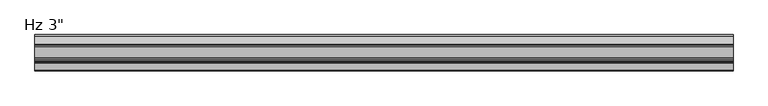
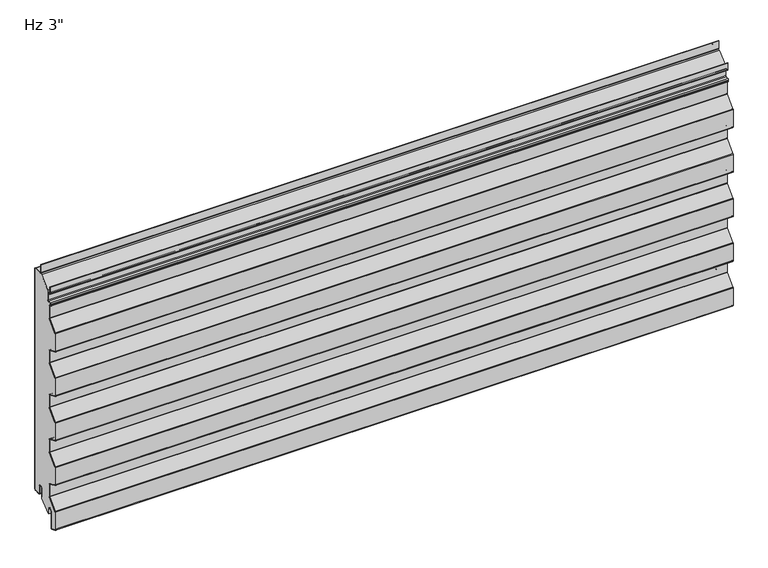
"""IFC4 building model written with IfcOpenShell, lengths in millimetres: plate geometry."""

import ifcopenshell
import ifcopenshell.guid

model = None  # the IFC model being written
_history = None  # IfcOwnerHistory: only IFC2X3 demands one
_inside = {}  # id of a spatial element -> (the spatial element, [elements in it])
_under = {}  # id of a project, library or spatial element -> (it, [spatial elements below it])
_declared = {}  # id of a project -> (the project, [libraries it declares])
_typed = {}  # id of a type object -> (the type object, [elements of that type])
_made_of = {}  # id of a material, layer set ... -> (it, [elements and type objects made of it])


def new_model(schema):
    """Start an empty IFC model of exactly this schema.

    Asked for "IFC4X3", IfcOpenShell would pick the latest addendum, in which some entities
    have other attributes; the version numbers below select the first issue.
    IFC2X3 requires an IfcOwnerHistory on every rooted entity: one is made here for all.
    """
    global model, _history
    if schema == "IFC4X3":
        model = ifcopenshell.file(schema_version=(4, 3, 0, 0))
    else:
        model = ifcopenshell.file(schema=schema)
    _inside.clear()
    _under.clear()
    _declared.clear()
    _typed.clear()
    _made_of.clear()
    _history = None
    if model.schema == "IFC2X3":
        org = make("IfcOrganization", Name="unknown")
        user = make(
            "IfcPersonAndOrganization",
            ThePerson=make("IfcPerson", FamilyName="unknown"),
            TheOrganization=org,
        )
        app = make(
            "IfcApplication",
            ApplicationDeveloper=org,
            Version="unknown",
            ApplicationFullName="unknown",
            ApplicationIdentifier="unknown",
        )
        _history = make(
            "IfcOwnerHistory",
            OwningUser=user,
            OwningApplication=app,
            ChangeAction="ADDED",
            CreationDate=0,
        )
    return model


def make(cls, **values):
    """One entity of the class cls with the attributes given. An attribute that is None is left unset."""
    return model.create_entity(
        cls, **{name: value for name, value in values.items() if value is not None}
    )


def rooted(cls, **values):
    """An entity with a GlobalId (a new one), such as an element, a storey or a relation."""
    return make(cls, GlobalId=ifcopenshell.guid.new(), OwnerHistory=_history, **values)


def si_unit(unit_type, name, prefix=None):
    """IfcSIUnit, for example si_unit("LENGTHUNIT", "METRE", prefix="MILLI")."""
    return make("IfcSIUnit", UnitType=unit_type, Prefix=prefix, Name=name)


def assignment(units):
    """IfcUnitAssignment: the units of a project."""
    return None if units is None else make("IfcUnitAssignment", Units=units)


def point(xyz):
    """IfcCartesianPoint."""
    return None if xyz is None else make("IfcCartesianPoint", Coordinates=xyz)


def direction(xyz):
    """IfcDirection."""
    return None if xyz is None else make("IfcDirection", DirectionRatios=xyz)


def frame(location, z_axis=None, x_axis=None):
    """IfcAxis2Placement3D, a coordinate frame: its origin and axes. An axis left out is left unset."""
    return make(
        "IfcAxis2Placement3D",
        Location=point(location),
        Axis=direction(z_axis),
        RefDirection=direction(x_axis),
    )


def frame_2d(location, x_axis=None):
    """IfcAxis2Placement2D, a coordinate frame in the plane: its origin and x axis."""
    return make(
        "IfcAxis2Placement2D", Location=point(location), RefDirection=direction(x_axis)
    )


def origin():
    """The frame at (0, 0, 0) with its axes left unset."""
    return frame((0.0, 0.0, 0.0))


def place(relative_to, where):
    """IfcLocalPlacement: puts the frame where relative to a parent placement (None: the world)."""
    return make(
        "IfcLocalPlacement", PlacementRelTo=relative_to, RelativePlacement=where
    )


def context(
    kind, dimensions, precision=None, world=None, true_north=None, identifier=None
):
    """IfcGeometricRepresentationContext, for example the 3D "Model" context."""
    return make(
        "IfcGeometricRepresentationContext",
        ContextIdentifier=identifier,
        ContextType=kind,
        CoordinateSpaceDimension=dimensions,
        Precision=precision,
        WorldCoordinateSystem=world,
        TrueNorth=true_north,
    )


def project(units=None, contexts=None):
    """IfcProject with its units and contexts."""
    return rooted(
        "IfcProject",
        Name="project",
        RepresentationContexts=contexts,
        UnitsInContext=assignment(units),
    )


def spatial(cls, under=None, at=None, **own):
    """A site, building, storey or space (cls), placed at a placement, below another one or the project."""
    s = rooted(cls, ObjectPlacement=at, **own)
    if under is not None:
        _under.setdefault(under.id(), (under, []))[1].append(s)
    return s


def polyline(points):
    """IfcPolyline through the points."""
    return make("IfcPolyline", Points=[point(p) for p in points])


def circle_curve(where, radius):
    """IfcCircle in the frame where."""
    return make("IfcCircle", Position=where, Radius=radius)


def trimmed(basis, trim1, trim2, sense, master):
    """IfcTrimmedCurve: the piece of a basis curve between two trims."""
    return make(
        "IfcTrimmedCurve",
        BasisCurve=basis,
        Trim1=trim1,
        Trim2=trim2,
        SenseAgreement=sense,
        MasterRepresentation=master,
    )


def segment(curve, same_sense, transition):
    """IfcCompositeCurveSegment."""
    return make(
        "IfcCompositeCurveSegment",
        Transition=transition,
        SameSense=same_sense,
        ParentCurve=curve,
    )


def composite_curve(segments, self_intersect=None):
    """IfcCompositeCurve: segments joined end to end."""
    return make("IfcCompositeCurve", Segments=segments, SelfIntersect=self_intersect)


def outline(outer, holes=None, kind="AREA"):
    """IfcArbitraryClosedProfileDef: a profile drawn as a closed curve; with holes, ...WithVoids."""
    if holes is None:
        return make("IfcArbitraryClosedProfileDef", ProfileType=kind, OuterCurve=outer)
    return make(
        "IfcArbitraryProfileDefWithVoids",
        ProfileType=kind,
        OuterCurve=outer,
        InnerCurves=holes,
    )


def extrude(swept, where, along, depth):
    """IfcExtrudedAreaSolid: the profile swept, set in the frame where, extruded along a direction by depth."""
    return make(
        "IfcExtrudedAreaSolid",
        SweptArea=swept,
        Position=where,
        ExtrudedDirection=direction(along),
        Depth=depth,
    )


def shape(context_of_items, identifier, shape_type, items):
    """IfcShapeRepresentation: the items that make up one representation, for example the "Body"."""
    return make(
        "IfcShapeRepresentation",
        ContextOfItems=context_of_items,
        RepresentationIdentifier=identifier,
        RepresentationType=shape_type,
        Items=items,
    )


def source(mapping_origin, context_of_items, identifier, shape_type, items):
    """IfcRepresentationMap: a shape defined once, which mapped items show again and again."""
    return make(
        "IfcRepresentationMap",
        MappingOrigin=mapping_origin,
        MappedRepresentation=shape(context_of_items, identifier, shape_type, items),
    )


def transform(
    local_origin,
    x_axis=None,
    y_axis=None,
    z_axis=None,
    scale=None,
    scale2=None,
    scale3=None,
    uniform=True,
):
    """IfcCartesianTransformationOperator3D, or its non-uniform kind. x_axis, y_axis, z_axis: its Axis1, 2, 3."""
    if uniform:
        return make(
            "IfcCartesianTransformationOperator3D",
            Axis1=direction(x_axis),
            Axis2=direction(y_axis),
            LocalOrigin=point(local_origin),
            Scale=scale,
            Axis3=direction(z_axis),
        )
    return make(
        "IfcCartesianTransformationOperator3DnonUniform",
        Axis1=direction(x_axis),
        Axis2=direction(y_axis),
        LocalOrigin=point(local_origin),
        Scale=scale,
        Axis3=direction(z_axis),
        Scale2=scale2,
        Scale3=scale3,
    )


def mapped(mapping_source, mapping_target):
    """IfcMappedItem: shows the shape of a source again, moved by a transform."""
    return make(
        "IfcMappedItem", MappingSource=mapping_source, MappingTarget=mapping_target
    )


def made_of(thing, what):
    """Note that an element or type object is made of a material, layer set ...; save() writes the relation."""
    if what is not None:
        _made_of.setdefault(what.id(), (what, []))[1].append(thing)
    return thing


def element(
    cls,
    number,
    at=None,
    inside=None,
    cuts=None,
    type_object=None,
    material=None,
    context=None,
    identifier="Body",
    shape_type=None,
    held_by="IfcProductDefinitionShape",
    body=None,
    shapes=None,
    **own,
):
    """One element of the class cls, such as IfcWall. Its Tag is "e" and its number.

    at: its placement. inside: the storey or other place that contains it. cuts: it is an
    opening in that element (IfcRelVoidsElement). A single representation is given by context,
    identifier, shape_type and body (its items); several are given by shapes. held_by: the class
    of the entity that holds the representations. save() writes the other relations.
    """
    e = rooted(cls, Tag="e%d" % number, ObjectPlacement=at, **own)
    if body is not None:
        shapes = [shape(context, identifier, shape_type, body)]
    if shapes is not None:
        e.Representation = make(held_by, Representations=shapes)
    if inside is not None:
        _inside.setdefault(inside.id(), (inside, []))[1].append(e)
    if cuts is not None:
        rooted(
            "IfcRelVoidsElement", RelatingBuildingElement=cuts, RelatedOpeningElement=e
        )
    if type_object is not None:
        _typed.setdefault(type_object.id(), (type_object, []))[1].append(e)
    return made_of(e, material)


def aggregate(whole, parts):
    """IfcRelAggregates: a whole, such as a stair, and the parts it consists of."""
    return rooted("IfcRelAggregates", RelatingObject=whole, RelatedObjects=parts)


def save(model, path):
    """Write the relations noted so far, then the file.

    IfcRelAggregates (storeys below a building ...), IfcRelContainedInSpatialStructure (elements
    in a storey), IfcRelDefinesByType, IfcRelAssociatesMaterial and IfcRelDeclares: one each for
    every whole, place, type object, material and project.
    """
    for whole, parts in _under.values():
        aggregate(whole, parts)
    for where, things in _inside.values():
        rooted(
            "IfcRelContainedInSpatialStructure",
            RelatedElements=things,
            RelatingStructure=where,
        )
    for kind, things in _typed.values():
        rooted("IfcRelDefinesByType", RelatedObjects=things, RelatingType=kind)
    for what, things in _made_of.values():
        rooted("IfcRelAssociatesMaterial", RelatedObjects=things, RelatingMaterial=what)
    for by, libraries in _declared.values():
        rooted("IfcRelDeclares", RelatingContext=by, RelatedDefinitions=libraries)
    model.write(path)


def plate_007a45e4(model_context):
    return source(origin(), model_context, "Body", "SweptSolid", [
        extrude(outline(composite_curve([segment(polyline([(-26.4011912, 19.05), (-26.4011912, -3.1976612), (-49.233822, -23.01875), (-51.3886912, -23.01875), (-51.3886912, -11.90625)]), True, "CONTINUOUS"), segment(trimmed(circle_curve(frame_2d((-56.3574412, -11.90625)), 4.96875), [point((-51.3886912, -11.90625))], [point((-61.3261912, -11.90625))], True, "CARTESIAN"), True, "CONTINUOUS"), segment(polyline([(-61.3261912, -11.90625), (-61.3261912, -48.8194049)]), True, "CONTINUOUS"), segment(trimmed(circle_curve(frame_2d((-62.7074412, -48.8194049)), 1.38125), [point((-61.3261912, -48.8194049))], [point((-63.2666208, -50.0824052))], False, "CARTESIAN"), True, "CONTINUOUS"), segment(polyline([(-63.2666208, -50.0824052), (-74.3779296, -45.1629946)]), True, "CONTINUOUS"), segment(trimmed(circle_curve(frame_2d((-73.81875, -43.8999943)), 1.38125), [point((-74.3779296, -45.1629946))], [point((-75.2, -43.8999943))], False, "CARTESIAN"), True, "CONTINUOUS"), segment(polyline([(-75.2, -43.8999943), (-75.2, -5.0536946)]), True, "CONTINUOUS"), segment(trimmed(circle_curve(frame_2d((-73.1012, -5.0536946)), 2.0988), [point((-75.2, -5.0536946))], [point((-74.6092077, -3.5939431))], False, "CARTESIAN"), True, "CONTINUOUS"), segment(polyline([(-74.6092077, -3.5939431), (-54.4145567, 17.2682996)]), True, "CONTINUOUS"), segment(trimmed(circle_curve(frame_2d((-56.2737, 19.0679503)), 2.5875), [point((-54.4145567, 17.2682996))], [point((-53.6862, 19.0679503))], True, "CARTESIAN"), True, "CONTINUOUS"), segment(polyline([(-53.6862, 19.0679503), (-53.6862, 45.5917981)]), True, "CONTINUOUS"), segment(trimmed(circle_curve(frame_2d((-56.2737, 45.5917981)), 2.5875), [point((-53.6862, 45.5917981))], [point((-55.2261871, 47.9577806))], True, "CARTESIAN"), True, "CONTINUOUS"), segment(polyline([(-55.2261871, 47.9577806), (-74.3779296, 56.4370054)]), True, "CONTINUOUS"), segment(trimmed(circle_curve(frame_2d((-73.81875, 57.7000057)), 1.38125), [point((-74.3779296, 56.4370054))], [point((-75.2, 57.7000057))], False, "CARTESIAN"), True, "CONTINUOUS"), segment(polyline([(-75.2, 57.7000057), (-75.2, 96.8367131)]), True, "CONTINUOUS"), segment(trimmed(circle_curve(frame_2d((-73.81875, 96.8367131)), 1.38125), [point((-75.2, 96.8367131))], [point((-74.8111912, 97.7973962))], False, "CARTESIAN"), True, "CONTINUOUS"), segment(polyline([(-74.8111912, 97.7973962), (-54.4145567, 118.8682996)]), True, "CONTINUOUS"), segment(trimmed(circle_curve(frame_2d((-56.2737, 120.6679503)), 2.5875), [point((-54.4145567, 118.8682996))], [point((-53.6862, 120.6679503))], True, "CARTESIAN"), True, "CONTINUOUS"), segment(polyline([(-53.6862, 120.6679503), (-53.6862, 147.1917981)]), True, "CONTINUOUS"), segment(trimmed(circle_curve(frame_2d((-56.2737, 147.1917981)), 2.5875), [point((-53.6862, 147.1917981))], [point((-55.2261871, 149.5577806))], True, "CARTESIAN"), True, "CONTINUOUS"), segment(polyline([(-55.2261871, 149.5577806), (-74.3779296, 158.0370054)]), True, "CONTINUOUS"), segment(trimmed(circle_curve(frame_2d((-73.81875, 159.3000057)), 1.38125), [point((-74.3779296, 158.0370054))], [point((-75.2, 159.3000057))], False, "CARTESIAN"), True, "CONTINUOUS"), segment(polyline([(-75.2, 159.3000057), (-75.2, 198.4367131)]), True, "CONTINUOUS"), segment(trimmed(circle_curve(frame_2d((-73.81875, 198.4367131)), 1.38125), [point((-75.2, 198.4367131))], [point((-74.8111912, 199.3973962))], False, "CARTESIAN"), True, "CONTINUOUS"), segment(polyline([(-74.8111912, 199.3973962), (-54.4145567, 220.4682996)]), True, "CONTINUOUS"), segment(trimmed(circle_curve(frame_2d((-56.2737, 222.2679503)), 2.5875), [point((-54.4145567, 220.4682996))], [point((-53.6862, 222.2679503))], True, "CARTESIAN"), True, "CONTINUOUS"), segment(polyline([(-53.6862, 222.2679503), (-53.6862, 248.7917981)]), True, "CONTINUOUS"), segment(trimmed(circle_curve(frame_2d((-56.2737, 248.7917981)), 2.5875), [point((-53.6862, 248.7917981))], [point((-55.2261871, 251.1577806))], True, "CARTESIAN"), True, "CONTINUOUS"), segment(polyline([(-55.2261871, 251.1577806), (-74.3779296, 259.6370054)]), True, "CONTINUOUS"), segment(trimmed(circle_curve(frame_2d((-73.81875, 260.9000057)), 1.38125), [point((-74.3779296, 259.6370054))], [point((-75.2, 260.9000057))], False, "CARTESIAN"), True, "CONTINUOUS"), segment(polyline([(-75.2, 260.9000057), (-75.2, 300.0367131)]), True, "CONTINUOUS"), segment(trimmed(circle_curve(frame_2d((-73.81875, 300.0367131)), 1.38125), [point((-75.2, 300.0367131))], [point((-74.8111912, 300.9973962))], False, "CARTESIAN"), True, "CONTINUOUS"), segment(polyline([(-74.8111912, 300.9973962), (-54.4145567, 322.0682996)]), True, "CONTINUOUS"), segment(trimmed(circle_curve(frame_2d((-56.2737, 323.8679503)), 2.5875), [point((-54.4145567, 322.0682996))], [point((-53.6862, 323.8679503))], True, "CARTESIAN"), True, "CONTINUOUS"), segment(polyline([(-53.6862, 323.8679503), (-53.6862, 350.3917981)]), True, "CONTINUOUS"), segment(trimmed(circle_curve(frame_2d((-56.2737, 350.3917981)), 2.5875), [point((-53.6862, 350.3917981))], [point((-55.2261871, 352.7577806))], True, "CARTESIAN"), True, "CONTINUOUS"), segment(polyline([(-55.2261871, 352.7577806), (-74.3779296, 361.2370054)]), True, "CONTINUOUS"), segment(trimmed(circle_curve(frame_2d((-73.81875, 362.5000057)), 1.38125), [point((-74.3779296, 361.2370054))], [point((-75.2, 362.5000057))], False, "CARTESIAN"), True, "CONTINUOUS"), segment(polyline([(-75.2, 362.5000057), (-75.2, 401.6367131)]), True, "CONTINUOUS"), segment(trimmed(circle_curve(frame_2d((-73.81875, 401.6367131)), 1.38125), [point((-75.2, 401.6367131))], [point((-74.8111912, 402.5973962))], False, "CARTESIAN"), True, "CONTINUOUS"), segment(polyline([(-74.8111912, 402.5973962), (-54.4145567, 423.6682996)]), True, "CONTINUOUS"), segment(trimmed(circle_curve(frame_2d((-56.2737, 425.4679503)), 2.5875), [point((-54.4145567, 423.6682996))], [point((-53.6862, 425.4679503))], True, "CARTESIAN"), True, "CONTINUOUS"), segment(polyline([(-53.6862, 425.4679503), (-53.6862, 451.9917981)]), True, "CONTINUOUS"), segment(trimmed(circle_curve(frame_2d((-56.2737, 451.9917981)), 2.5875), [point((-53.6862, 451.9917981))], [point((-55.2261871, 454.3577806))], True, "CARTESIAN"), True, "CONTINUOUS"), segment(polyline([(-55.2261871, 454.3577806), (-56.9166208, 455.1062016)]), True, "CONTINUOUS"), segment(trimmed(circle_curve(frame_2d((-56.3574412, 456.3692019)), 1.38125), [point((-56.9166208, 455.1062016))], [point((-57.7386912, 456.3692019))], False, "CARTESIAN"), True, "CONTINUOUS"), segment(polyline([(-57.7386912, 456.3692019), (-57.7386912, 458.6967085)]), True, "CONTINUOUS"), segment(trimmed(circle_curve(frame_2d((-56.3574412, 458.6967085)), 1.38125), [point((-57.7386912, 458.6967085))], [point((-56.4297302, 460.0760655))], False, "CARTESIAN"), True, "CONTINUOUS"), segment(polyline([(-56.4297302, 460.0760655), (-50.6657719, 460.3781418)]), True, "CONTINUOUS"), segment(trimmed(circle_curve(frame_2d((-50.8011912, 462.9620957)), 2.5875), [point((-50.6657719, 460.3781418))], [point((-48.2136912, 462.9620957))], True, "CARTESIAN"), True, "CONTINUOUS"), segment(polyline([(-48.2136912, 462.9620957), (-48.2136912, 485.3892934), (-24.8719682, 506.20625), (-2.3824412, 506.20625)]), True, "CONTINUOUS"), segment(trimmed(circle_curve(frame_2d((-2.3824412, 504.825)), 1.38125), [point((-2.3824412, 506.20625))], [point((-1.0011912, 504.825))], False, "CARTESIAN"), True, "CONTINUOUS"), segment(polyline([(-1.0011912, 504.825), (-1.0011912, 3.175)]), True, "CONTINUOUS"), segment(trimmed(circle_curve(frame_2d((-2.3824412, 3.175)), 1.38125), [point((-1.0011912, 3.175))], [point((-2.3824412, 1.79375))], False, "CARTESIAN"), True, "CONTINUOUS"), segment(polyline([(-2.3824412, 1.79375), (-15.0824412, 1.79375)]), True, "CONTINUOUS"), segment(trimmed(circle_curve(frame_2d((-15.0824412, 3.175)), 1.38125), [point((-15.0824412, 1.79375))], [point((-16.4636912, 3.175))], False, "CARTESIAN"), True, "CONTINUOUS"), segment(polyline([(-16.4636912, 3.175), (-16.4636912, 19.05)]), True, "CONTINUOUS"), segment(trimmed(circle_curve(frame_2d((-21.4324412, 19.05)), 4.96875), [point((-16.4636912, 19.05))], [point((-26.4011912, 19.05))], True, "CARTESIAN"), True, "CONTINUOUS")], self_intersect=False)), frame((-730.0, 0.0, 0.0), z_axis=(1.0, 0.0, 0.0), x_axis=(0.0, 1.0, 0.0)), (0.0, 0.0, 1.0), 1460.0),
        extrude(outline(composite_curve([segment(polyline([(-25.4, 0.79375), (-26.4, 0.79375), (-26.4, 19.05)]), True, "CONTINUOUS"), segment(trimmed(circle_curve(frame_2d((-21.43125, 19.05)), 4.96875), [point((-26.4, 19.05))], [point((-16.4625, 19.05))], False, "CARTESIAN"), True, "CONTINUOUS"), segment(polyline([(-16.4625, 19.05), (-16.4625, 3.175)]), True, "CONTINUOUS"), segment(trimmed(circle_curve(frame_2d((-15.08125, 3.175)), 1.38125), [point((-16.4625, 3.175))], [point((-15.08125, 1.79375))], True, "CARTESIAN"), True, "CONTINUOUS"), segment(polyline([(-15.08125, 1.79375), (-2.38125, 1.79375)]), True, "CONTINUOUS"), segment(trimmed(circle_curve(frame_2d((-2.38125, 3.175)), 1.38125), [point((-2.38125, 1.79375))], [point((-1.0, 3.175))], True, "CARTESIAN"), True, "CONTINUOUS"), segment(polyline([(-1.0, 3.175), (-1.0, 504.825)]), True, "CONTINUOUS"), segment(trimmed(circle_curve(frame_2d((-2.38125, 504.825)), 1.38125), [point((-1.0, 504.825))], [point((-2.38125, 506.20625))], True, "CARTESIAN"), True, "CONTINUOUS"), segment(polyline([(-2.38125, 506.20625), (-19.446875, 506.20625)]), True, "CONTINUOUS"), segment(trimmed(circle_curve(frame_2d((-19.446875, 508.79375)), 2.5875), [point((-19.446875, 506.20625))], [point((-22.034375, 508.79375))], False, "CARTESIAN"), True, "CONTINUOUS"), segment(polyline([(-22.034375, 508.79375), (-22.034375, 526.25625), (-21.034375, 526.25625), (-21.034375, 508.79375)]), True, "CONTINUOUS"), segment(trimmed(circle_curve(frame_2d((-19.446875, 508.79375)), 1.5875), [point((-21.034375, 508.79375))], [point((-19.446875, 507.20625))], True, "CARTESIAN"), True, "CONTINUOUS"), segment(polyline([(-19.446875, 507.20625), (-2.38125, 507.20625)]), True, "CONTINUOUS"), segment(trimmed(circle_curve(frame_2d((-2.38125, 504.825)), 2.38125), [point((-2.38125, 507.20625))], [point((0.0, 504.825))], False, "CARTESIAN"), True, "CONTINUOUS"), segment(polyline([(0.0, 504.825), (0.0, 3.175)]), True, "CONTINUOUS"), segment(trimmed(circle_curve(frame_2d((-2.38125, 3.175)), 2.38125), [point((0.0, 3.175))], [point((-2.38125, 0.79375))], False, "CARTESIAN"), True, "CONTINUOUS"), segment(polyline([(-2.38125, 0.79375), (-15.08125, 0.79375)]), True, "CONTINUOUS"), segment(trimmed(circle_curve(frame_2d((-15.08125, 3.175)), 2.38125), [point((-15.08125, 0.79375))], [point((-17.4625, 3.175))], False, "CARTESIAN"), True, "CONTINUOUS"), segment(polyline([(-17.4625, 3.175), (-17.4625, 19.05)]), True, "CONTINUOUS"), segment(trimmed(circle_curve(frame_2d((-21.43125, 19.05)), 3.96875), [point((-17.4625, 19.05))], [point((-25.4, 19.05))], True, "CARTESIAN"), True, "CONTINUOUS"), segment(polyline([(-25.4, 19.05), (-25.4, 0.79375)]), True, "CONTINUOUS")], self_intersect=False)), frame((-730.0, 0.0, 0.0), z_axis=(1.0, 0.0, 0.0), x_axis=(0.0, 1.0, 0.0)), (0.0, 0.0, 1.0), 1460.0),
        extrude(outline(composite_curve([segment(polyline([(-60.3261912, -11.90625), (-60.3261912, -48.8194049)]), True, "CONTINUOUS"), segment(trimmed(circle_curve(frame_2d((-62.7074412, -48.8194049)), 2.38125), [point((-60.3261912, -48.8194049))], [point((-63.6714567, -50.9967946))], False, "CARTESIAN"), True, "CONTINUOUS"), segment(polyline([(-63.6714567, -50.9967946), (-74.7827655, -46.0773839)]), True, "CONTINUOUS"), segment(trimmed(circle_curve(frame_2d((-73.81875, -43.8999943)), 2.38125), [point((-74.7827655, -46.0773839))], [point((-76.2, -43.8999943))], False, "CARTESIAN"), True, "CONTINUOUS"), segment(polyline([(-76.2, -43.8999943), (-76.2, -5.0536946)]), True, "CONTINUOUS"), segment(trimmed(circle_curve(frame_2d((-73.1012, -5.0536946)), 3.0988), [point((-76.2, -5.0536946))], [point((-75.3277172, -2.8984259))], False, "CARTESIAN"), True, "CONTINUOUS"), segment(polyline([(-75.3277172, -2.8984259), (-55.1330662, 17.9638168)]), True, "CONTINUOUS"), segment(trimmed(circle_curve(frame_2d((-56.2737, 19.0679503)), 1.5875), [point((-55.1330662, 17.9638168))], [point((-54.6862, 19.0679503))], True, "CARTESIAN"), True, "CONTINUOUS"), segment(polyline([(-54.6862, 19.0679503), (-54.6862, 45.5917981)]), True, "CONTINUOUS"), segment(trimmed(circle_curve(frame_2d((-56.2737, 45.5917981)), 1.5875), [point((-54.6862, 45.5917981))], [point((-55.631023, 47.0433912))], True, "CARTESIAN"), True, "CONTINUOUS"), segment(polyline([(-55.631023, 47.0433912), (-74.7827655, 55.5226161)]), True, "CONTINUOUS"), segment(trimmed(circle_curve(frame_2d((-73.81875, 57.7000057)), 2.38125), [point((-74.7827655, 55.5226161))], [point((-76.2, 57.7000057))], False, "CARTESIAN"), True, "CONTINUOUS"), segment(polyline([(-76.2, 57.7000057), (-76.2, 96.8367131)]), True, "CONTINUOUS"), segment(trimmed(circle_curve(frame_2d((-73.81875, 96.8367131)), 2.38125), [point((-76.2, 96.8367131))], [point((-75.5297007, 98.4929134))], False, "CARTESIAN"), True, "CONTINUOUS"), segment(polyline([(-75.5297007, 98.4929134), (-55.1330662, 119.5638168)]), True, "CONTINUOUS"), segment(trimmed(circle_curve(frame_2d((-56.2737, 120.6679503)), 1.5875), [point((-55.1330662, 119.5638168))], [point((-54.6862, 120.6679503))], True, "CARTESIAN"), True, "CONTINUOUS"), segment(polyline([(-54.6862, 120.6679503), (-54.6862, 147.1917981)]), True, "CONTINUOUS"), segment(trimmed(circle_curve(frame_2d((-56.2737, 147.1917981)), 1.5875), [point((-54.6862, 147.1917981))], [point((-55.631023, 148.6433912))], True, "CARTESIAN"), True, "CONTINUOUS"), segment(polyline([(-55.631023, 148.6433912), (-74.7827655, 157.1226161)]), True, "CONTINUOUS"), segment(trimmed(circle_curve(frame_2d((-73.81875, 159.3000057)), 2.38125), [point((-74.7827655, 157.1226161))], [point((-76.2, 159.3000057))], False, "CARTESIAN"), True, "CONTINUOUS"), segment(polyline([(-76.2, 159.3000057), (-76.2, 198.4367131)]), True, "CONTINUOUS"), segment(trimmed(circle_curve(frame_2d((-73.81875, 198.4367131)), 2.38125), [point((-76.2, 198.4367131))], [point((-75.5297007, 200.0929134))], False, "CARTESIAN"), True, "CONTINUOUS"), segment(polyline([(-75.5297007, 200.0929134), (-55.1330662, 221.1638168)]), True, "CONTINUOUS"), segment(trimmed(circle_curve(frame_2d((-56.2737, 222.2679503)), 1.5875), [point((-55.1330662, 221.1638168))], [point((-54.6862, 222.2679503))], True, "CARTESIAN"), True, "CONTINUOUS"), segment(polyline([(-54.6862, 222.2679503), (-54.6862, 248.7917981)]), True, "CONTINUOUS"), segment(trimmed(circle_curve(frame_2d((-56.2737, 248.7917981)), 1.5875), [point((-54.6862, 248.7917981))], [point((-55.631023, 250.2433912))], True, "CARTESIAN"), True, "CONTINUOUS"), segment(polyline([(-55.631023, 250.2433912), (-74.7827655, 258.7226161)]), True, "CONTINUOUS"), segment(trimmed(circle_curve(frame_2d((-73.81875, 260.9000057)), 2.38125), [point((-74.7827655, 258.7226161))], [point((-76.2, 260.9000057))], False, "CARTESIAN"), True, "CONTINUOUS"), segment(polyline([(-76.2, 260.9000057), (-76.2, 300.0367131)]), True, "CONTINUOUS"), segment(trimmed(circle_curve(frame_2d((-73.81875, 300.0367131)), 2.38125), [point((-76.2, 300.0367131))], [point((-75.5297007, 301.6929134))], False, "CARTESIAN"), True, "CONTINUOUS"), segment(polyline([(-75.5297007, 301.6929134), (-55.1330662, 322.7638168)]), True, "CONTINUOUS"), segment(trimmed(circle_curve(frame_2d((-56.2737, 323.8679503)), 1.5875), [point((-55.1330662, 322.7638168))], [point((-54.6862, 323.8679503))], True, "CARTESIAN"), True, "CONTINUOUS"), segment(polyline([(-54.6862, 323.8679503), (-54.6862, 350.3917981)]), True, "CONTINUOUS"), segment(trimmed(circle_curve(frame_2d((-56.2737, 350.3917981)), 1.5875), [point((-54.6862, 350.3917981))], [point((-55.631023, 351.8433912))], True, "CARTESIAN"), True, "CONTINUOUS"), segment(polyline([(-55.631023, 351.8433912), (-74.7827655, 360.3226161)]), True, "CONTINUOUS"), segment(trimmed(circle_curve(frame_2d((-73.81875, 362.5000057)), 2.38125), [point((-74.7827655, 360.3226161))], [point((-76.2, 362.5000057))], False, "CARTESIAN"), True, "CONTINUOUS"), segment(polyline([(-76.2, 362.5000057), (-76.2, 401.6367131)]), True, "CONTINUOUS"), segment(trimmed(circle_curve(frame_2d((-73.81875, 401.6367131)), 2.38125), [point((-76.2, 401.6367131))], [point((-75.5297007, 403.2929134))], False, "CARTESIAN"), True, "CONTINUOUS"), segment(polyline([(-75.5297007, 403.2929134), (-55.1330662, 424.3638168)]), True, "CONTINUOUS"), segment(trimmed(circle_curve(frame_2d((-56.2737, 425.4679503)), 1.5875), [point((-55.1330662, 424.3638168))], [point((-54.6862, 425.4679503))], True, "CARTESIAN"), True, "CONTINUOUS"), segment(polyline([(-54.6862, 425.4679503), (-54.6862, 451.9917981)]), True, "CONTINUOUS"), segment(trimmed(circle_curve(frame_2d((-56.2737, 451.9917981)), 1.5875), [point((-54.6862, 451.9917981))], [point((-55.631023, 453.4433912))], True, "CARTESIAN"), True, "CONTINUOUS"), segment(polyline([(-55.631023, 453.4433912), (-57.3214567, 454.1918123)]), True, "CONTINUOUS"), segment(trimmed(circle_curve(frame_2d((-56.3574412, 456.3692019)), 2.38125), [point((-57.3214567, 454.1918123))], [point((-58.7386912, 456.3692019))], False, "CARTESIAN"), True, "CONTINUOUS"), segment(polyline([(-58.7386912, 456.3692019), (-58.7386912, 458.6967085)]), True, "CONTINUOUS"), segment(trimmed(circle_curve(frame_2d((-56.3574412, 458.6967085)), 2.38125), [point((-58.7386912, 458.6967085))], [point((-56.4820662, 461.0746951))], False, "CARTESIAN"), True, "CONTINUOUS"), segment(polyline([(-56.4820662, 461.0746951), (-50.7181078, 461.3767713)]), True, "CONTINUOUS"), segment(trimmed(circle_curve(frame_2d((-50.8011912, 462.9620957)), 1.5875), [point((-50.7181078, 461.3767713))], [point((-49.2136912, 462.9620957))], True, "CARTESIAN"), True, "CONTINUOUS"), segment(polyline([(-49.2136912, 462.9620957), (-49.2136912, 477.8375)]), True, "CONTINUOUS"), segment(trimmed(circle_curve(frame_2d((-50.8011912, 477.8375)), 1.5875), [point((-49.2136912, 477.8375))], [point((-50.8011912, 479.425))], True, "CARTESIAN"), True, "CONTINUOUS"), segment(polyline([(-50.8011912, 479.425), (-54.3730662, 479.425)]), True, "CONTINUOUS"), segment(trimmed(circle_curve(frame_2d((-54.3730662, 481.80625)), 2.38125), [point((-54.3730662, 479.425))], [point((-56.7543162, 481.80625))], False, "CARTESIAN"), True, "CONTINUOUS"), segment(polyline([(-56.7543162, 481.80625), (-56.7543162, 496.09375), (-55.7543162, 496.09375), (-55.7543162, 481.80625)]), True, "CONTINUOUS"), segment(trimmed(circle_curve(frame_2d((-54.3730662, 481.80625)), 1.38125), [point((-55.7543162, 481.80625))], [point((-54.3730662, 480.425))], True, "CARTESIAN"), True, "CONTINUOUS"), segment(polyline([(-54.3730662, 480.425), (-50.8011912, 480.425)]), True, "CONTINUOUS"), segment(trimmed(circle_curve(frame_2d((-50.8011912, 477.8375)), 2.5875), [point((-50.8011912, 480.425))], [point((-48.2136912, 477.8375))], False, "CARTESIAN"), True, "CONTINUOUS"), segment(polyline([(-48.2136912, 477.8375), (-48.2136912, 462.9620957)]), True, "CONTINUOUS"), segment(trimmed(circle_curve(frame_2d((-50.8011912, 462.9620957)), 2.5875), [point((-48.2136912, 462.9620957))], [point((-50.6657719, 460.3781418))], False, "CARTESIAN"), True, "CONTINUOUS"), segment(polyline([(-50.6657719, 460.3781418), (-56.4297302, 460.0760655)]), True, "CONTINUOUS"), segment(trimmed(circle_curve(frame_2d((-56.3574412, 458.6967085)), 1.38125), [point((-56.4297302, 460.0760655))], [point((-57.7386912, 458.6967085))], True, "CARTESIAN"), True, "CONTINUOUS"), segment(polyline([(-57.7386912, 458.6967085), (-57.7386912, 456.3692019)]), True, "CONTINUOUS"), segment(trimmed(circle_curve(frame_2d((-56.3574412, 456.3692019)), 1.38125), [point((-57.7386912, 456.3692019))], [point((-56.9166208, 455.1062016))], True, "CARTESIAN"), True, "CONTINUOUS"), segment(polyline([(-56.9166208, 455.1062016), (-55.2261871, 454.3577806)]), True, "CONTINUOUS"), segment(trimmed(circle_curve(frame_2d((-56.2737, 451.9917981)), 2.5875), [point((-55.2261871, 454.3577806))], [point((-53.6862, 451.9917981))], False, "CARTESIAN"), True, "CONTINUOUS"), segment(polyline([(-53.6862, 451.9917981), (-53.6862, 425.4679503)]), True, "CONTINUOUS"), segment(trimmed(circle_curve(frame_2d((-56.2737, 425.4679503)), 2.5875), [point((-53.6862, 425.4679503))], [point((-54.4145567, 423.6682996))], False, "CARTESIAN"), True, "CONTINUOUS"), segment(polyline([(-54.4145567, 423.6682996), (-74.8111912, 402.5973962)]), True, "CONTINUOUS"), segment(trimmed(circle_curve(frame_2d((-73.81875, 401.6367131)), 1.38125), [point((-74.8111912, 402.5973962))], [point((-75.2, 401.6367131))], True, "CARTESIAN"), True, "CONTINUOUS"), segment(polyline([(-75.2, 401.6367131), (-75.2, 362.5000057)]), True, "CONTINUOUS"), segment(trimmed(circle_curve(frame_2d((-73.81875, 362.5000057)), 1.38125), [point((-75.2, 362.5000057))], [point((-74.3779296, 361.2370054))], True, "CARTESIAN"), True, "CONTINUOUS"), segment(polyline([(-74.3779296, 361.2370054), (-55.2261871, 352.7577806)]), True, "CONTINUOUS"), segment(trimmed(circle_curve(frame_2d((-56.2737, 350.3917981)), 2.5875), [point((-55.2261871, 352.7577806))], [point((-53.6862, 350.3917981))], False, "CARTESIAN"), True, "CONTINUOUS"), segment(polyline([(-53.6862, 350.3917981), (-53.6862, 323.8679503)]), True, "CONTINUOUS"), segment(trimmed(circle_curve(frame_2d((-56.2737, 323.8679503)), 2.5875), [point((-53.6862, 323.8679503))], [point((-54.4145567, 322.0682996))], False, "CARTESIAN"), True, "CONTINUOUS"), segment(polyline([(-54.4145567, 322.0682996), (-74.8111912, 300.9973962)]), True, "CONTINUOUS"), segment(trimmed(circle_curve(frame_2d((-73.81875, 300.0367131)), 1.38125), [point((-74.8111912, 300.9973962))], [point((-75.2, 300.0367131))], True, "CARTESIAN"), True, "CONTINUOUS"), segment(polyline([(-75.2, 300.0367131), (-75.2, 260.9000057)]), True, "CONTINUOUS"), segment(trimmed(circle_curve(frame_2d((-73.81875, 260.9000057)), 1.38125), [point((-75.2, 260.9000057))], [point((-74.3779296, 259.6370054))], True, "CARTESIAN"), True, "CONTINUOUS"), segment(polyline([(-74.3779296, 259.6370054), (-55.2261871, 251.1577806)]), True, "CONTINUOUS"), segment(trimmed(circle_curve(frame_2d((-56.2737, 248.7917981)), 2.5875), [point((-55.2261871, 251.1577806))], [point((-53.6862, 248.7917981))], False, "CARTESIAN"), True, "CONTINUOUS"), segment(polyline([(-53.6862, 248.7917981), (-53.6862, 222.2679503)]), True, "CONTINUOUS"), segment(trimmed(circle_curve(frame_2d((-56.2737, 222.2679503)), 2.5875), [point((-53.6862, 222.2679503))], [point((-54.4145567, 220.4682996))], False, "CARTESIAN"), True, "CONTINUOUS"), segment(polyline([(-54.4145567, 220.4682996), (-74.8111912, 199.3973962)]), True, "CONTINUOUS"), segment(trimmed(circle_curve(frame_2d((-73.81875, 198.4367131)), 1.38125), [point((-74.8111912, 199.3973962))], [point((-75.2, 198.4367131))], True, "CARTESIAN"), True, "CONTINUOUS"), segment(polyline([(-75.2, 198.4367131), (-75.2, 159.3000057)]), True, "CONTINUOUS"), segment(trimmed(circle_curve(frame_2d((-73.81875, 159.3000057)), 1.38125), [point((-75.2, 159.3000057))], [point((-74.3779296, 158.0370054))], True, "CARTESIAN"), True, "CONTINUOUS"), segment(polyline([(-74.3779296, 158.0370054), (-55.2261871, 149.5577806)]), True, "CONTINUOUS"), segment(trimmed(circle_curve(frame_2d((-56.2737, 147.1917981)), 2.5875), [point((-55.2261871, 149.5577806))], [point((-53.6862, 147.1917981))], False, "CARTESIAN"), True, "CONTINUOUS"), segment(polyline([(-53.6862, 147.1917981), (-53.6862, 120.6679503)]), True, "CONTINUOUS"), segment(trimmed(circle_curve(frame_2d((-56.2737, 120.6679503)), 2.5875), [point((-53.6862, 120.6679503))], [point((-54.4145567, 118.8682996))], False, "CARTESIAN"), True, "CONTINUOUS"), segment(polyline([(-54.4145567, 118.8682996), (-74.8111912, 97.7973962)]), True, "CONTINUOUS"), segment(trimmed(circle_curve(frame_2d((-73.81875, 96.8367131)), 1.38125), [point((-74.8111912, 97.7973962))], [point((-75.2, 96.8367131))], True, "CARTESIAN"), True, "CONTINUOUS"), segment(polyline([(-75.2, 96.8367131), (-75.2, 57.7000057)]), True, "CONTINUOUS"), segment(trimmed(circle_curve(frame_2d((-73.81875, 57.7000057)), 1.38125), [point((-75.2, 57.7000057))], [point((-74.3779296, 56.4370054))], True, "CARTESIAN"), True, "CONTINUOUS"), segment(polyline([(-74.3779296, 56.4370054), (-55.2261871, 47.9577806)]), True, "CONTINUOUS"), segment(trimmed(circle_curve(frame_2d((-56.2737, 45.5917981)), 2.5875), [point((-55.2261871, 47.9577806))], [point((-53.6862, 45.5917981))], False, "CARTESIAN"), True, "CONTINUOUS"), segment(polyline([(-53.6862, 45.5917981), (-53.6862, 19.0679503)]), True, "CONTINUOUS"), segment(trimmed(circle_curve(frame_2d((-56.2737, 19.0679503)), 2.5875), [point((-53.6862, 19.0679503))], [point((-54.4145567, 17.2682996))], False, "CARTESIAN"), True, "CONTINUOUS"), segment(polyline([(-54.4145567, 17.2682996), (-74.6092077, -3.5939431)]), True, "CONTINUOUS"), segment(trimmed(circle_curve(frame_2d((-73.1012, -5.0536946)), 2.0988), [point((-74.6092077, -3.5939431))], [point((-75.2, -5.0536946))], True, "CARTESIAN"), True, "CONTINUOUS"), segment(polyline([(-75.2, -5.0536946), (-75.2, -43.8999943)]), True, "CONTINUOUS"), segment(trimmed(circle_curve(frame_2d((-73.81875, -43.8999943)), 1.38125), [point((-75.2, -43.8999943))], [point((-74.3779296, -45.1629946))], True, "CARTESIAN"), True, "CONTINUOUS"), segment(polyline([(-74.3779296, -45.1629946), (-63.2666208, -50.0824052)]), True, "CONTINUOUS"), segment(trimmed(circle_curve(frame_2d((-62.7074412, -48.8194049)), 1.38125), [point((-63.2666208, -50.0824052))], [point((-61.3261912, -48.8194049))], True, "CARTESIAN"), True, "CONTINUOUS"), segment(polyline([(-61.3261912, -48.8194049), (-61.3261912, -11.90625)]), True, "CONTINUOUS"), segment(trimmed(circle_curve(frame_2d((-56.3574412, -11.90625)), 4.96875), [point((-61.3261912, -11.90625))], [point((-51.3886912, -11.90625))], False, "CARTESIAN"), True, "CONTINUOUS"), segment(polyline([(-51.3886912, -11.90625), (-51.3886912, -23.01875), (-52.3886912, -23.01875), (-52.3886912, -11.90625)]), True, "CONTINUOUS"), segment(trimmed(circle_curve(frame_2d((-56.3574412, -11.90625)), 3.96875), [point((-52.3886912, -11.90625))], [point((-60.3261912, -11.90625))], True, "CARTESIAN"), True, "CONTINUOUS")], self_intersect=False)), frame((-730.0, 0.0, 0.0), z_axis=(1.0, 0.0, 0.0), x_axis=(0.0, 1.0, 0.0)), (0.0, 0.0, 1.0), 1460.0),
    ])


if __name__ == "__main__":
    model = new_model("IFC4")
    model_context = context("Model", 3, world=origin())
    ifc_project = project(units=[si_unit("LENGTHUNIT", "METRE", prefix="MILLI")], contexts=[model_context])
    site = spatial("IfcSite", under=ifc_project)
    building = spatial("IfcBuilding", under=site)
    placement = place(None, origin())
    plate_shape = plate_007a45e4(model_context)
    element("IfcPlate", 1, ObjectType="KIP-20-DWR-R19-CP-Hz-S : Hz 3\"", at=placement, inside=building, context=model_context, shape_type="MappedRepresentation", body=[
        mapped(plate_shape, transform((0.0, 0.0, 0.0), x_axis=(1.0, 0.0, 0.0), y_axis=(0.0, 1.0, 0.0), z_axis=(0.0, 0.0, 1.0))),
    ])
    save(model, "model.ifc")
